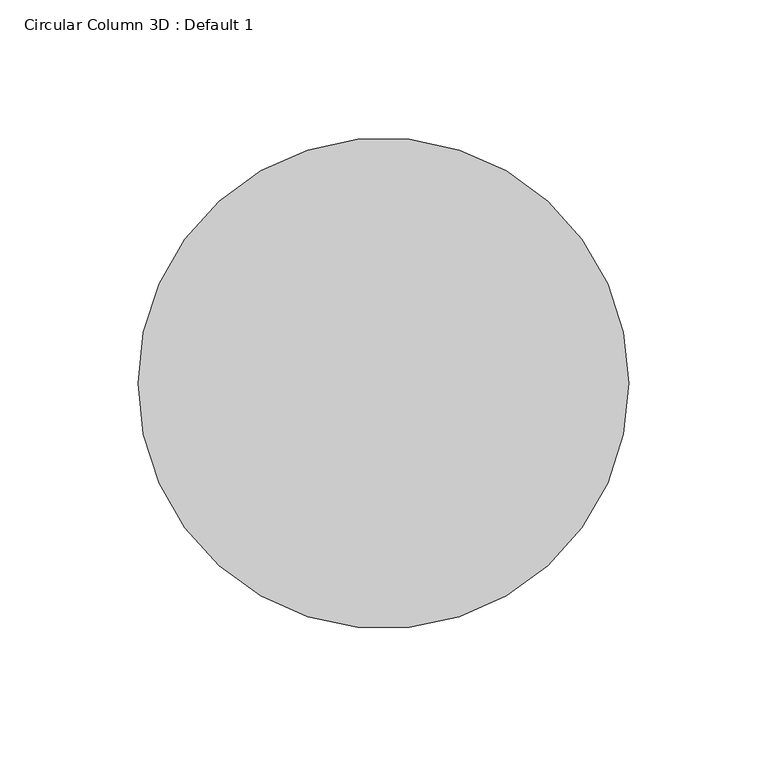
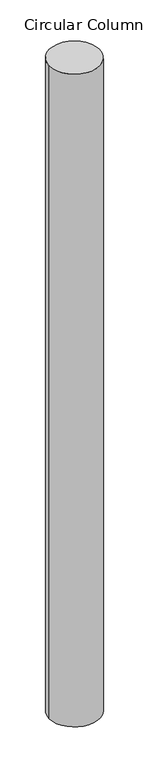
"""IFC4 building model written with IfcOpenShell, lengths in millimetres: column geometry, Circular Column 3D : Default 1."""

import ifcopenshell
import ifcopenshell.guid

model = None  # the IFC model being written
_history = None  # IfcOwnerHistory: only IFC2X3 demands one
_inside = {}  # id of a spatial element -> (the spatial element, [elements in it])
_under = {}  # id of a project, library or spatial element -> (it, [spatial elements below it])
_declared = {}  # id of a project -> (the project, [libraries it declares])
_typed = {}  # id of a type object -> (the type object, [elements of that type])
_made_of = {}  # id of a material, layer set ... -> (it, [elements and type objects made of it])


def new_model(schema):
    """Start an empty IFC model of exactly this schema.

    Asked for "IFC4X3", IfcOpenShell would pick the latest addendum, in which some entities
    have other attributes; the version numbers below select the first issue.
    IFC2X3 requires an IfcOwnerHistory on every rooted entity: one is made here for all.
    """
    global model, _history
    if schema == "IFC4X3":
        model = ifcopenshell.file(schema_version=(4, 3, 0, 0))
    else:
        model = ifcopenshell.file(schema=schema)
    _inside.clear()
    _under.clear()
    _declared.clear()
    _typed.clear()
    _made_of.clear()
    _history = None
    if model.schema == "IFC2X3":
        org = make("IfcOrganization", Name="unknown")
        user = make(
            "IfcPersonAndOrganization",
            ThePerson=make("IfcPerson", FamilyName="unknown"),
            TheOrganization=org,
        )
        app = make(
            "IfcApplication",
            ApplicationDeveloper=org,
            Version="unknown",
            ApplicationFullName="unknown",
            ApplicationIdentifier="unknown",
        )
        _history = make(
            "IfcOwnerHistory",
            OwningUser=user,
            OwningApplication=app,
            ChangeAction="ADDED",
            CreationDate=0,
        )
    return model


def make(cls, **values):
    """One entity of the class cls with the attributes given. An attribute that is None is left unset."""
    return model.create_entity(
        cls, **{name: value for name, value in values.items() if value is not None}
    )


def rooted(cls, **values):
    """An entity with a GlobalId (a new one), such as an element, a storey or a relation."""
    return make(cls, GlobalId=ifcopenshell.guid.new(), OwnerHistory=_history, **values)


def si_unit(unit_type, name, prefix=None):
    """IfcSIUnit, for example si_unit("LENGTHUNIT", "METRE", prefix="MILLI")."""
    return make("IfcSIUnit", UnitType=unit_type, Prefix=prefix, Name=name)


def assignment(units):
    """IfcUnitAssignment: the units of a project."""
    return None if units is None else make("IfcUnitAssignment", Units=units)


def point(xyz):
    """IfcCartesianPoint."""
    return None if xyz is None else make("IfcCartesianPoint", Coordinates=xyz)


def direction(xyz):
    """IfcDirection."""
    return None if xyz is None else make("IfcDirection", DirectionRatios=xyz)


def frame(location, z_axis=None, x_axis=None):
    """IfcAxis2Placement3D, a coordinate frame: its origin and axes. An axis left out is left unset."""
    return make(
        "IfcAxis2Placement3D",
        Location=point(location),
        Axis=direction(z_axis),
        RefDirection=direction(x_axis),
    )


def frame_2d(location, x_axis=None):
    """IfcAxis2Placement2D, a coordinate frame in the plane: its origin and x axis."""
    return make(
        "IfcAxis2Placement2D", Location=point(location), RefDirection=direction(x_axis)
    )


def origin():
    """The frame at (0, 0, 0) with its axes left unset."""
    return frame((0.0, 0.0, 0.0))


def origin_with_axes():
    """The frame at (0, 0, 0) with the z axis (0, 0, 1) and the x axis (1, 0, 0) written out."""
    return frame((0.0, 0.0, 0.0), z_axis=(0.0, 0.0, 1.0), x_axis=(1.0, 0.0, 0.0))


def origin_2d():
    """The frame at (0, 0) in the plane with its x axis left unset."""
    return frame_2d((0.0, 0.0))


def place(relative_to, where):
    """IfcLocalPlacement: puts the frame where relative to a parent placement (None: the world)."""
    return make(
        "IfcLocalPlacement", PlacementRelTo=relative_to, RelativePlacement=where
    )


def context(
    kind, dimensions, precision=None, world=None, true_north=None, identifier=None
):
    """IfcGeometricRepresentationContext, for example the 3D "Model" context."""
    return make(
        "IfcGeometricRepresentationContext",
        ContextIdentifier=identifier,
        ContextType=kind,
        CoordinateSpaceDimension=dimensions,
        Precision=precision,
        WorldCoordinateSystem=world,
        TrueNorth=true_north,
    )


def project(units=None, contexts=None):
    """IfcProject with its units and contexts."""
    return rooted(
        "IfcProject",
        Name="project",
        RepresentationContexts=contexts,
        UnitsInContext=assignment(units),
    )


def spatial(cls, under=None, at=None, **own):
    """A site, building, storey or space (cls), placed at a placement, below another one or the project."""
    s = rooted(cls, ObjectPlacement=at, **own)
    if under is not None:
        _under.setdefault(under.id(), (under, []))[1].append(s)
    return s


def circle_curve(where, radius):
    """IfcCircle in the frame where."""
    return make("IfcCircle", Position=where, Radius=radius)


def trimmed(basis, trim1, trim2, sense, master):
    """IfcTrimmedCurve: the piece of a basis curve between two trims."""
    return make(
        "IfcTrimmedCurve",
        BasisCurve=basis,
        Trim1=trim1,
        Trim2=trim2,
        SenseAgreement=sense,
        MasterRepresentation=master,
    )


def segment(curve, same_sense, transition):
    """IfcCompositeCurveSegment."""
    return make(
        "IfcCompositeCurveSegment",
        Transition=transition,
        SameSense=same_sense,
        ParentCurve=curve,
    )


def composite_curve(segments, self_intersect=None):
    """IfcCompositeCurve: segments joined end to end."""
    return make("IfcCompositeCurve", Segments=segments, SelfIntersect=self_intersect)


def outline(outer, holes=None, kind="AREA"):
    """IfcArbitraryClosedProfileDef: a profile drawn as a closed curve; with holes, ...WithVoids."""
    if holes is None:
        return make("IfcArbitraryClosedProfileDef", ProfileType=kind, OuterCurve=outer)
    return make(
        "IfcArbitraryProfileDefWithVoids",
        ProfileType=kind,
        OuterCurve=outer,
        InnerCurves=holes,
    )


def extrude(swept, where, along, depth):
    """IfcExtrudedAreaSolid: the profile swept, set in the frame where, extruded along a direction by depth."""
    return make(
        "IfcExtrudedAreaSolid",
        SweptArea=swept,
        Position=where,
        ExtrudedDirection=direction(along),
        Depth=depth,
    )


def shape(context_of_items, identifier, shape_type, items):
    """IfcShapeRepresentation: the items that make up one representation, for example the "Body"."""
    return make(
        "IfcShapeRepresentation",
        ContextOfItems=context_of_items,
        RepresentationIdentifier=identifier,
        RepresentationType=shape_type,
        Items=items,
    )


def source(mapping_origin, context_of_items, identifier, shape_type, items):
    """IfcRepresentationMap: a shape defined once, which mapped items show again and again."""
    return make(
        "IfcRepresentationMap",
        MappingOrigin=mapping_origin,
        MappedRepresentation=shape(context_of_items, identifier, shape_type, items),
    )


def transform(
    local_origin,
    x_axis=None,
    y_axis=None,
    z_axis=None,
    scale=None,
    scale2=None,
    scale3=None,
    uniform=True,
):
    """IfcCartesianTransformationOperator3D, or its non-uniform kind. x_axis, y_axis, z_axis: its Axis1, 2, 3."""
    if uniform:
        return make(
            "IfcCartesianTransformationOperator3D",
            Axis1=direction(x_axis),
            Axis2=direction(y_axis),
            LocalOrigin=point(local_origin),
            Scale=scale,
            Axis3=direction(z_axis),
        )
    return make(
        "IfcCartesianTransformationOperator3DnonUniform",
        Axis1=direction(x_axis),
        Axis2=direction(y_axis),
        LocalOrigin=point(local_origin),
        Scale=scale,
        Axis3=direction(z_axis),
        Scale2=scale2,
        Scale3=scale3,
    )


def mapped(mapping_source, mapping_target):
    """IfcMappedItem: shows the shape of a source again, moved by a transform."""
    return make(
        "IfcMappedItem", MappingSource=mapping_source, MappingTarget=mapping_target
    )


def made_of(thing, what):
    """Note that an element or type object is made of a material, layer set ...; save() writes the relation."""
    if what is not None:
        _made_of.setdefault(what.id(), (what, []))[1].append(thing)
    return thing


def element(
    cls,
    number,
    at=None,
    inside=None,
    cuts=None,
    type_object=None,
    material=None,
    context=None,
    identifier="Body",
    shape_type=None,
    held_by="IfcProductDefinitionShape",
    body=None,
    shapes=None,
    **own,
):
    """One element of the class cls, such as IfcWall. Its Tag is "e" and its number.

    at: its placement. inside: the storey or other place that contains it. cuts: it is an
    opening in that element (IfcRelVoidsElement). A single representation is given by context,
    identifier, shape_type and body (its items); several are given by shapes. held_by: the class
    of the entity that holds the representations. save() writes the other relations.
    """
    e = rooted(cls, Tag="e%d" % number, ObjectPlacement=at, **own)
    if body is not None:
        shapes = [shape(context, identifier, shape_type, body)]
    if shapes is not None:
        e.Representation = make(held_by, Representations=shapes)
    if inside is not None:
        _inside.setdefault(inside.id(), (inside, []))[1].append(e)
    if cuts is not None:
        rooted(
            "IfcRelVoidsElement", RelatingBuildingElement=cuts, RelatedOpeningElement=e
        )
    if type_object is not None:
        _typed.setdefault(type_object.id(), (type_object, []))[1].append(e)
    return made_of(e, material)


def aggregate(whole, parts):
    """IfcRelAggregates: a whole, such as a stair, and the parts it consists of."""
    return rooted("IfcRelAggregates", RelatingObject=whole, RelatedObjects=parts)


def save(model, path):
    """Write the relations noted so far, then the file.

    IfcRelAggregates (storeys below a building ...), IfcRelContainedInSpatialStructure (elements
    in a storey), IfcRelDefinesByType, IfcRelAssociatesMaterial and IfcRelDeclares: one each for
    every whole, place, type object, material and project.
    """
    for whole, parts in _under.values():
        aggregate(whole, parts)
    for where, things in _inside.values():
        rooted(
            "IfcRelContainedInSpatialStructure",
            RelatedElements=things,
            RelatingStructure=where,
        )
    for kind, things in _typed.values():
        rooted("IfcRelDefinesByType", RelatedObjects=things, RelatingType=kind)
    for what, things in _made_of.values():
        rooted("IfcRelAssociatesMaterial", RelatedObjects=things, RelatingMaterial=what)
    for by, libraries in _declared.values():
        rooted("IfcRelDeclares", RelatingContext=by, RelatedDefinitions=libraries)
    model.write(path)


def circular_column_3d_default_1_31dfe619(model_context):
    return source(origin(), model_context, "Body", "SweptSolid", [
        extrude(outline(composite_curve([segment(trimmed(circle_curve(origin_2d(), 88.9), [point((-88.9, 0.0))], [point((88.9, 0.0))], False, "CARTESIAN"), True, "CONTINUOUS"), segment(trimmed(circle_curve(origin_2d(), 88.9), [point((88.9, 0.0))], [point((-88.9, 0.0))], False, "CARTESIAN"), True, "CONTINUOUS")], self_intersect=False)), origin_with_axes(), (0.0, 0.0, 1.0), 2438.4),
    ])


if __name__ == "__main__":
    model = new_model("IFC4")
    model_context = context("Model", 3, world=origin())
    ifc_project = project(units=[si_unit("LENGTHUNIT", "METRE", prefix="MILLI")], contexts=[model_context])
    site = spatial("IfcSite", under=ifc_project)
    building = spatial("IfcBuilding", under=site)
    placement = place(None, origin())
    circular_column_3d_default_1_shape = circular_column_3d_default_1_31dfe619(model_context)
    element("IfcColumn", 1, ObjectType="Circular Column 3D : Default 1", at=placement, inside=building, context=model_context, shape_type="MappedRepresentation", body=[
        mapped(circular_column_3d_default_1_shape, transform((0.0, 0.0, 0.0), x_axis=(1.0, 0.0, 0.0), y_axis=(0.0, 1.0, 0.0), z_axis=(0.0, 0.0, 1.0))),
    ])
    save(model, "model.ifc")
